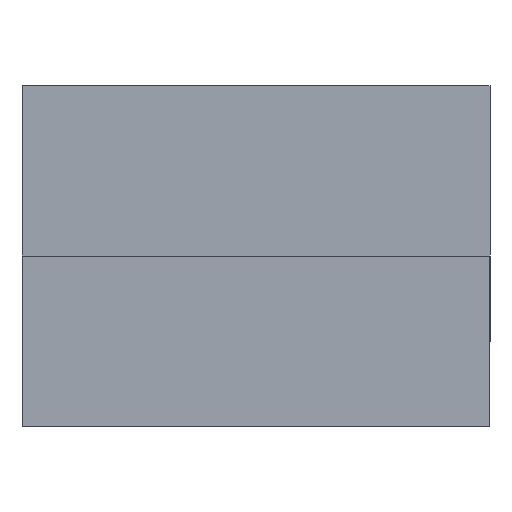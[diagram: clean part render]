
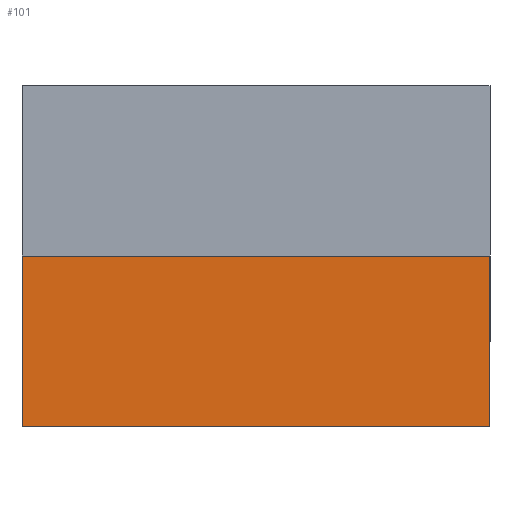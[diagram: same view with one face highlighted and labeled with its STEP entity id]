
A CAD part, left-side view. The second image highlights one B-rep face of the part: STEP entity #101.
In plain terms, the highlighted planar face has unit normal (-1, 0, 0).
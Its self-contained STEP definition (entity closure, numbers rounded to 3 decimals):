
#19 = DIRECTION ( 'NONE',  ( 0., -1., 0. ) ) ;
#26 = CARTESIAN_POINT ( 'NONE',  ( -6., -2.75, 0. ) ) ;
#44 = DIRECTION ( 'NONE',  ( 0., 0., -1. ) ) ;
#52 = FACE_OUTER_BOUND ( 'NONE', #133, .T. ) ;
#57 = CARTESIAN_POINT ( 'NONE',  ( -6., -2.75, 2. ) ) ;
#78 = EDGE_CURVE ( 'NONE', #475, #432, #170, .T. ) ;
#101 = ADVANCED_FACE ( 'NONE', ( #52 ), #482, .F. ) ;
#111 = EDGE_CURVE ( 'NONE', #432, #208, #263, .T. ) ;
#122 = ORIENTED_EDGE ( 'NONE', *, *, #131, .F. ) ;
#124 = CARTESIAN_POINT ( 'NONE',  ( -6., -2.75, 2. ) ) ;
#131 = EDGE_CURVE ( 'NONE', #222, #208, #259, .T. ) ;
#133 = EDGE_LOOP ( 'NONE', ( #244, #122, #483, #382 ) ) ;
#147 = VECTOR ( 'NONE', #489, 1000. ) ;
#170 = LINE ( 'NONE', #370, #491 ) ;
#183 = CARTESIAN_POINT ( 'NONE',  ( -6., -2.75, 0. ) ) ;
#185 = CARTESIAN_POINT ( 'NONE',  ( -6., -2.75, 2. ) ) ;
#208 = VERTEX_POINT ( 'NONE', #183 ) ;
#222 = VERTEX_POINT ( 'NONE', #313 ) ;
#244 = ORIENTED_EDGE ( 'NONE', *, *, #111, .T. ) ;
#259 = LINE ( 'NONE', #57, #147 ) ;
#263 = LINE ( 'NONE', #26, #279 ) ;
#279 = VECTOR ( 'NONE', #19, 1000. ) ;
#293 = DIRECTION ( 'NONE',  ( 1., 0., 0. ) ) ;
#306 = LINE ( 'NONE', #185, #396 ) ;
#313 = CARTESIAN_POINT ( 'NONE',  ( -6., -2.75, 2. ) ) ;
#370 = CARTESIAN_POINT ( 'NONE',  ( -6., 2.75, 2. ) ) ;
#373 = EDGE_CURVE ( 'NONE', #475, #222, #306, .T. ) ;
#382 = ORIENTED_EDGE ( 'NONE', *, *, #78, .T. ) ;
#396 = VECTOR ( 'NONE', #456, 1000. ) ;
#402 = DIRECTION ( 'NONE',  ( 0., 0., -1. ) ) ;
#428 = AXIS2_PLACEMENT_3D ( 'NONE', #124, #293, #402 ) ;
#432 = VERTEX_POINT ( 'NONE', #509 ) ;
#456 = DIRECTION ( 'NONE',  ( 0., -1., 0. ) ) ;
#468 = CARTESIAN_POINT ( 'NONE',  ( -6., 2.75, 2. ) ) ;
#475 = VERTEX_POINT ( 'NONE', #468 ) ;
#482 = PLANE ( 'NONE',  #428 ) ;
#483 = ORIENTED_EDGE ( 'NONE', *, *, #373, .F. ) ;
#489 = DIRECTION ( 'NONE',  ( 0., 0., -1. ) ) ;
#491 = VECTOR ( 'NONE', #44, 1000. ) ;
#509 = CARTESIAN_POINT ( 'NONE',  ( -6., 2.75, 0. ) ) ;
